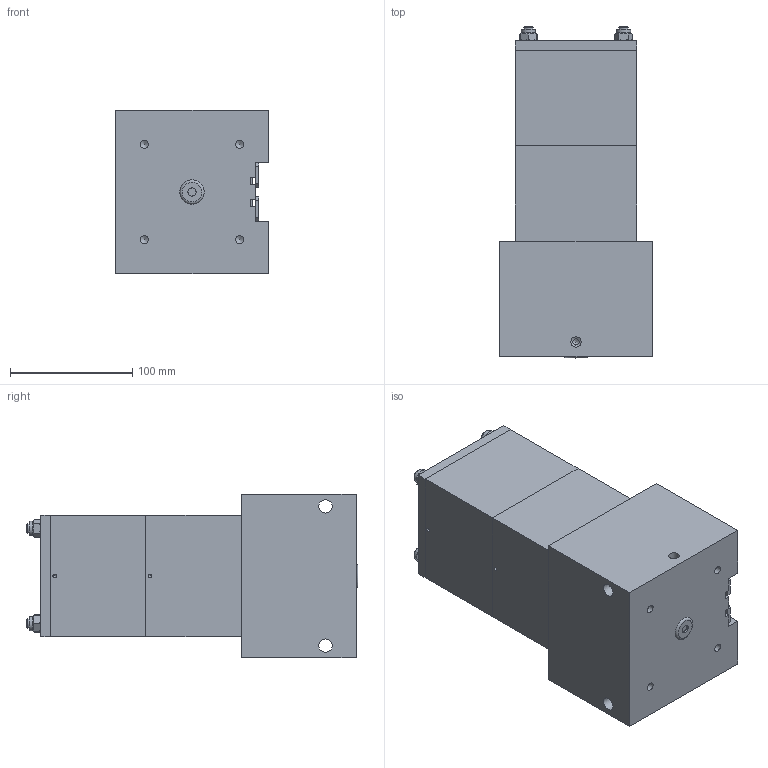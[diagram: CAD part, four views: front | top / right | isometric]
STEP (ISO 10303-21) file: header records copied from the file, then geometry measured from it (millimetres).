
FILE_DESCRIPTION((''),'2;1');
FILE_NAME('C:\VaultWork\Zeichnungen\Maßblätter\Multizylinder\M 90\M90-60\M01829-3-0 Maßblatt Multizylinder M90-3-60 berührungslose Abfrage.stp','2013-10-14T11:26:52',('Sergeew'),(''),'Autodesk Inventor 2012','Autodesk Inventor 2012','');
FILE_SCHEMA(('AUTOMOTIVE_DESIGN { 1 0 10303 214 1 1 1 1 }'));
Length unit declared in the file: millimetre
Products named in the file (1): M01829-3-0 Maßblatt Multizylinder M90-3-60 berührungslose Abfrage
Bounding box: 125 x 271.5 x 134 mm (x, y, z)
Volume: 3059759.5 mm3; surface area: 186648.1 mm2
Topology: 1 solids, 5 shells, 196 faces, 463 edges, 297 vertices
Faces by surface type: plane 122, cylinder 45, cone 28, torus 1
Full cylindrical faces by diameter (mm): 3 x2, 4.3 x4, 5 x1, 6.647 x5, 8 x8, 8.566 x2, 9 x4, 10 x8, 11 x2, 11.6 x4, 15 x1
Entity records: 5019 total; most frequent: CARTESIAN_POINT 917, DIRECTION 814, ORIENTED_EDGE 720, EDGE_CURVE 360, AXIS2_PLACEMENT_3D 305, EDGE_LOOP 298, VERTEX_POINT 264, VECTOR 204
